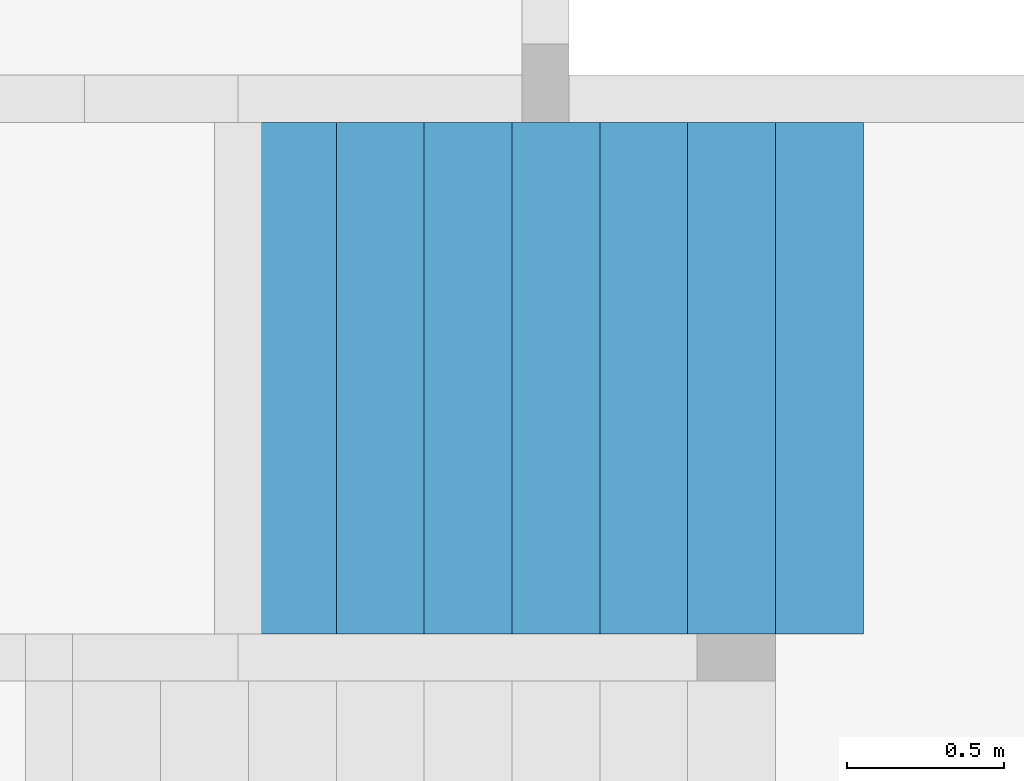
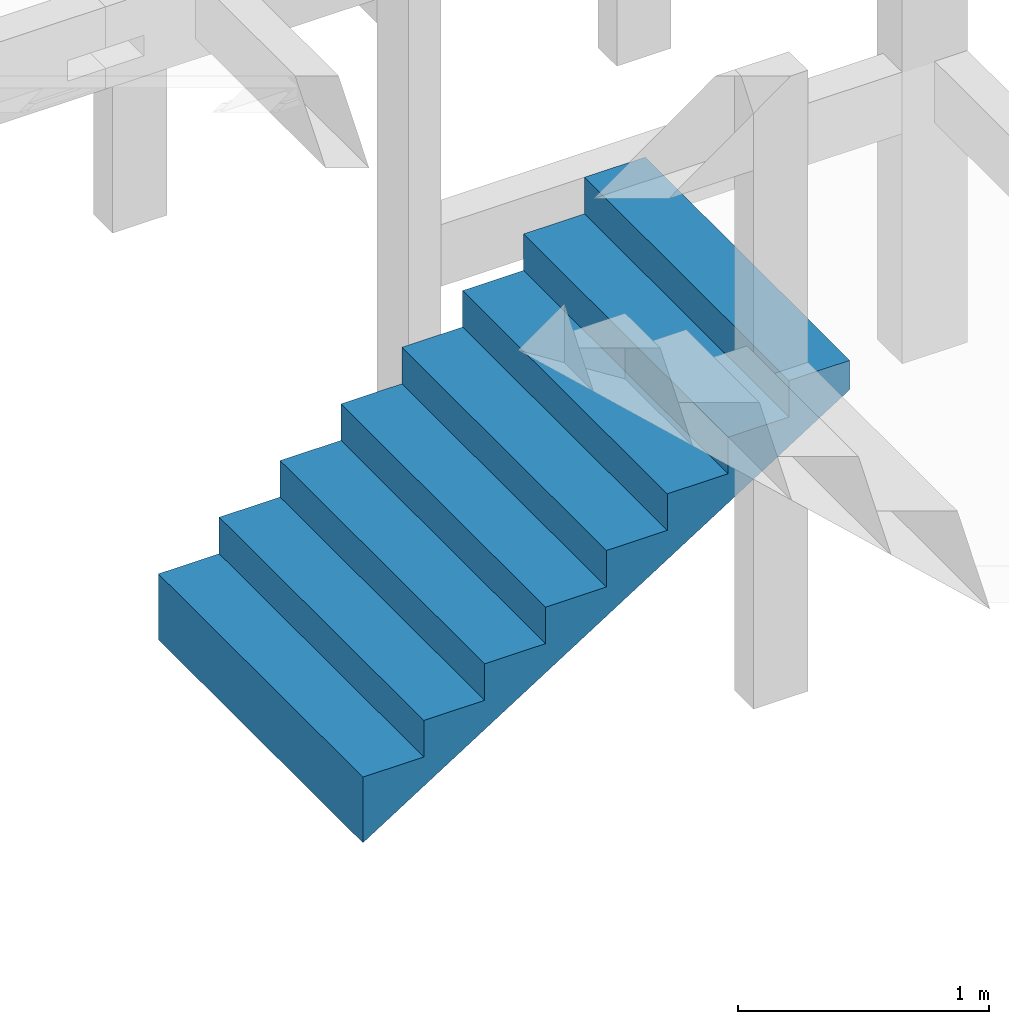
# One storey, part 21 of 21: 1 stair flight.
"""IFC4 building model written with IfcOpenShell, lengths in centimetres."""

from ifc_helpers import new_model, si_unit, derived_unit, frame, origin_with_axes, place, context, project, spatial, faceted_brep, material, element, save


model = new_model("IFC4")

# Units and contexts
model_context = context("Model", 3, precision=1e-05, world=origin_with_axes(), identifier="Body")
ifc_project = project(units=[si_unit("LENGTHUNIT", "METRE", prefix="CENTI"), si_unit("VOLUMEUNIT", "CUBIC_METRE"), si_unit("AREAUNIT", "SQUARE_METRE"), si_unit("POWERUNIT", "WATT"), si_unit("LUMINOUSFLUXUNIT", "LUMEN"), si_unit("ELECTRICCURRENTUNIT", "AMPERE"), si_unit("PRESSUREUNIT", "PASCAL", prefix="KILO"), si_unit("MASSUNIT", "GRAM", prefix="KILO"), si_unit("PLANEANGLEUNIT", "RADIAN"), derived_unit("VOLUMETRICFLOWRATEUNIT", [(si_unit("LENGTHUNIT", "METRE"), 3), (si_unit("TIMEUNIT", "SECOND"), -1)])], contexts=[model_context])

# Site, building, storey
site_placement = place(None, origin_with_axes())
site = spatial("IfcSite", under=ifc_project, at=site_placement)
building_placement = place(site_placement, frame((0.0, 0.0, -295.0)))
building = spatial("IfcBuilding", under=site, at=building_placement)
placement_1 = place(building_placement, origin_with_axes())
placement_2 = place(placement_1, frame((0.0, 0.0, 101.0), z_axis=(0.0, 0.0, 1.0), x_axis=(1.0, 0.0, 0.0)))
placement_3 = place(placement_2, frame((0.0, 0.0, 204.0), z_axis=(0.0, 0.0, 1.0), x_axis=(1.0, 0.0, 0.0)))
placement_4 = place(placement_3, frame((0.0, 0.0, 292.0), z_axis=(0.0, 0.0, 1.0), x_axis=(1.0, 0.0, 0.0)))
storey_placement = place(placement_4, frame((0.0, 0.0, 302.0), z_axis=(0.0, 0.0, 1.0), x_axis=(1.0, 0.0, 0.0)))
storey = spatial("IfcBuildingStorey", under=building, at=storey_placement, Name="PAVTO 02", CompositionType="ELEMENT", Elevation=604.0)

# Stair flight
ifc_material = material(Name="Concreto")
stair_flight_placement = place(storey_placement, frame((3756.59, -6917.8, -160.0), z_axis=(0.0, 0.0, 1.0), x_axis=(1.0, 0.0, 0.0)))
element("IfcStairFlight", 1, at=stair_flight_placement, inside=storey, material=ifc_material, Name="LE1", NumberOfRisers=0, NumberOfTreads=0, context=model_context, shape_type="Brep", body=[
    faceted_brep([(112.0, 81.51, 0.0), (84.0, 81.51, 0.0), (84.0, -81.51, 0.0), (112.0, -81.51, 0.0), (84.0, 81.51, -31.958047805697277), (112.0, 81.51, -14.208047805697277), (112.0, -81.51, -14.208047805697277), (84.0, -81.51, -31.958047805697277), (112.0, 81.51, -14.208047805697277), (112.0, 81.51, 0.0), (112.0, -81.51, 0.0), (112.0, -81.51, -14.208047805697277), (84.0, 81.51, 0.0), (84.0, 81.51, -31.958047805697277), (84.0, -81.51, -31.958047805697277), (84.0, -81.51, 0.0), (84.0, -81.51, -31.958047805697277), (112.0, -81.51, -14.208047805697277), (112.0, -81.51, 0.0), (84.0, -81.51, 0.0), (84.0, 81.51, -31.958047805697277), (84.0, 81.51, 0.0), (112.0, 81.51, 0.0), (112.0, 81.51, -14.208047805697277), (84.0, 81.51, -17.75), (56.0, 81.51, -17.75), (56.0, -81.51, -17.75), (84.0, -81.51, -17.75), (56.0, 81.51, -49.70804780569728), (84.0, 81.51, -31.958047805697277), (84.0, -81.51, -31.958047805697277), (56.0, -81.51, -49.70804780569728), (84.0, 81.51, -31.958047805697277), (84.0, 81.51, -17.75), (84.0, -81.51, -17.75), (84.0, -81.51, -31.958047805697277), (56.0, 81.51, -17.75), (56.0, 81.51, -49.70804780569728), (56.0, -81.51, -49.70804780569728), (56.0, -81.51, -17.75), (56.0, -81.51, -49.70804780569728), (84.0, -81.51, -31.958047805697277), (84.0, -81.51, -17.75), (56.0, -81.51, -17.75), (56.0, 81.51, -49.70804780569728), (56.0, 81.51, -17.75), (84.0, 81.51, -17.75), (84.0, 81.51, -31.958047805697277), (56.0, 81.51, -35.5), (28.0, 81.51, -35.5), (28.0, -81.51, -35.5), (56.0, -81.51, -35.5), (28.0, 81.51, -67.45804780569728), (56.0, 81.51, -49.70804780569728), (56.0, -81.51, -49.70804780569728), (28.0, -81.51, -67.45804780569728), (56.0, 81.51, -49.70804780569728), (56.0, 81.51, -35.5), (56.0, -81.51, -35.5), (56.0, -81.51, -49.70804780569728), (28.0, 81.51, -35.5), (28.0, 81.51, -67.45804780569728), (28.0, -81.51, -67.45804780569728), (28.0, -81.51, -35.5), (28.0, -81.51, -67.45804780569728), (56.0, -81.51, -49.70804780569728), (56.0, -81.51, -35.5), (28.0, -81.51, -35.5), (28.0, 81.51, -67.45804780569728), (28.0, 81.51, -35.5), (56.0, 81.51, -35.5), (56.0, 81.51, -49.70804780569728), (28.0, 81.51, -53.25), (0.0, 81.51, -53.25), (0.0, -81.51, -53.25), (28.0, -81.51, -53.25), (0.0, 81.51, -85.20804780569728), (28.0, 81.51, -67.45804780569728), (28.0, -81.51, -67.45804780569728), (0.0, -81.51, -85.20804780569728), (28.0, 81.51, -67.45804780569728), (28.0, 81.51, -53.25), (28.0, -81.51, -53.25), (28.0, -81.51, -67.45804780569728), (0.0, 81.51, -53.25), (0.0, 81.51, -85.20804780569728), (0.0, -81.51, -85.20804780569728), (0.0, -81.51, -53.25), (0.0, -81.51, -85.20804780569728), (28.0, -81.51, -67.45804780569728), (28.0, -81.51, -53.25), (0.0, -81.51, -53.25), (0.0, 81.51, -85.20804780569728), (0.0, 81.51, -53.25), (28.0, 81.51, -53.25), (28.0, 81.51, -67.45804780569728), (0.0, 81.51, -71.0), (-28.0, 81.51, -71.0), (-28.0, -81.51, -71.0), (0.0, -81.51, -71.0), (-28.0, 81.51, -102.95804780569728), (0.0, 81.51, -85.20804780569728), (0.0, -81.51, -85.20804780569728), (-28.0, -81.51, -102.95804780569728), (0.0, 81.51, -85.20804780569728), (0.0, 81.51, -71.0), (0.0, -81.51, -71.0), (0.0, -81.51, -85.20804780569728), (-28.0, 81.51, -71.0), (-28.0, 81.51, -102.95804780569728), (-28.0, -81.51, -102.95804780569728), (-28.0, -81.51, -71.0), (-28.0, -81.51, -102.95804780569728), (0.0, -81.51, -85.20804780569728), (0.0, -81.51, -71.0), (-28.0, -81.51, -71.0), (-28.0, 81.51, -102.95804780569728), (-28.0, 81.51, -71.0), (0.0, 81.51, -71.0), (0.0, 81.51, -85.20804780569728), (-28.0, 81.51, -88.75), (-56.0, 81.51, -88.75), (-56.0, -81.51, -88.75), (-28.0, -81.51, -88.75), (-56.0, 81.51, -120.70804780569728), (-28.0, 81.51, -102.95804780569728), (-28.0, -81.51, -102.95804780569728), (-56.0, -81.51, -120.70804780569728), (-28.0, 81.51, -102.95804780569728), (-28.0, 81.51, -88.75), (-28.0, -81.51, -88.75), (-28.0, -81.51, -102.95804780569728), (-56.0, 81.51, -88.75), (-56.0, 81.51, -120.70804780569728), (-56.0, -81.51, -120.70804780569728), (-56.0, -81.51, -88.75), (-56.0, -81.51, -120.70804780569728), (-28.0, -81.51, -102.95804780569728), (-28.0, -81.51, -88.75), (-56.0, -81.51, -88.75), (-56.0, 81.51, -120.70804780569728), (-56.0, 81.51, -88.75), (-28.0, 81.51, -88.75), (-28.0, 81.51, -102.95804780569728), (-56.0, 81.51, -106.5), (-84.0, 81.51, -106.5), (-84.0, -81.51, -106.5), (-56.0, -81.51, -106.5), (-84.0, 81.51, -138.45804780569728), (-56.0, 81.51, -120.70804780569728), (-56.0, -81.51, -120.70804780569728), (-84.0, -81.51, -138.45804780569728), (-56.0, 81.51, -120.70804780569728), (-56.0, 81.51, -106.5), (-56.0, -81.51, -106.5), (-56.0, -81.51, -120.70804780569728), (-84.0, 81.51, -106.5), (-84.0, 81.51, -138.45804780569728), (-84.0, -81.51, -138.45804780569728), (-84.0, -81.51, -106.5), (-84.0, -81.51, -138.45804780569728), (-56.0, -81.51, -120.70804780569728), (-56.0, -81.51, -106.5), (-84.0, -81.51, -106.5), (-84.0, 81.51, -138.45804780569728), (-84.0, 81.51, -106.5), (-56.0, 81.51, -106.5), (-56.0, 81.51, -120.70804780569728), (-84.0, 81.51, -124.25), (-112.0, 81.51, -124.25), (-112.0, -81.51, -124.25), (-84.0, -81.51, -124.25), (-112.0, 81.51, -156.20804780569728), (-84.0, 81.51, -138.45804780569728), (-84.0, -81.51, -138.45804780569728), (-112.0, -81.51, -156.20804780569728), (-84.0, 81.51, -138.45804780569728), (-84.0, 81.51, -124.25), (-84.0, -81.51, -124.25), (-84.0, -81.51, -138.45804780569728), (-112.0, 81.51, -124.25), (-112.0, 81.51, -156.20804780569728), (-112.0, -81.51, -156.20804780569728), (-112.0, -81.51, -124.25), (-112.0, -81.51, -156.20804780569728), (-84.0, -81.51, -138.45804780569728), (-84.0, -81.51, -124.25), (-112.0, -81.51, -124.25), (-112.0, 81.51, -156.20804780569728), (-112.0, 81.51, -124.25), (-84.0, 81.51, -124.25), (-84.0, 81.51, -138.45804780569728)], [[[0, 1, 2, 3]], [[4, 5, 6, 7]], [[8, 9, 10, 11]], [[12, 13, 14, 15]], [[16, 17, 18, 19]], [[20, 21, 22, 23]], [[24, 25, 26, 27]], [[28, 29, 30, 31]], [[32, 33, 34, 35]], [[36, 37, 38, 39]], [[40, 41, 42, 43]], [[44, 45, 46, 47]], [[48, 49, 50, 51]], [[52, 53, 54, 55]], [[56, 57, 58, 59]], [[60, 61, 62, 63]], [[64, 65, 66, 67]], [[68, 69, 70, 71]], [[72, 73, 74, 75]], [[76, 77, 78, 79]], [[80, 81, 82, 83]], [[84, 85, 86, 87]], [[88, 89, 90, 91]], [[92, 93, 94, 95]], [[96, 97, 98, 99]], [[100, 101, 102, 103]], [[104, 105, 106, 107]], [[108, 109, 110, 111]], [[112, 113, 114, 115]], [[116, 117, 118, 119]], [[120, 121, 122, 123]], [[124, 125, 126, 127]], [[128, 129, 130, 131]], [[132, 133, 134, 135]], [[136, 137, 138, 139]], [[140, 141, 142, 143]], [[144, 145, 146, 147]], [[148, 149, 150, 151]], [[152, 153, 154, 155]], [[156, 157, 158, 159]], [[160, 161, 162, 163]], [[164, 165, 166, 167]], [[168, 169, 170, 171]], [[172, 173, 174, 175]], [[176, 177, 178, 179]], [[180, 181, 182, 183]], [[184, 185, 186, 187]], [[188, 189, 190, 191]]]),
])

save(model, "model.ifc")
